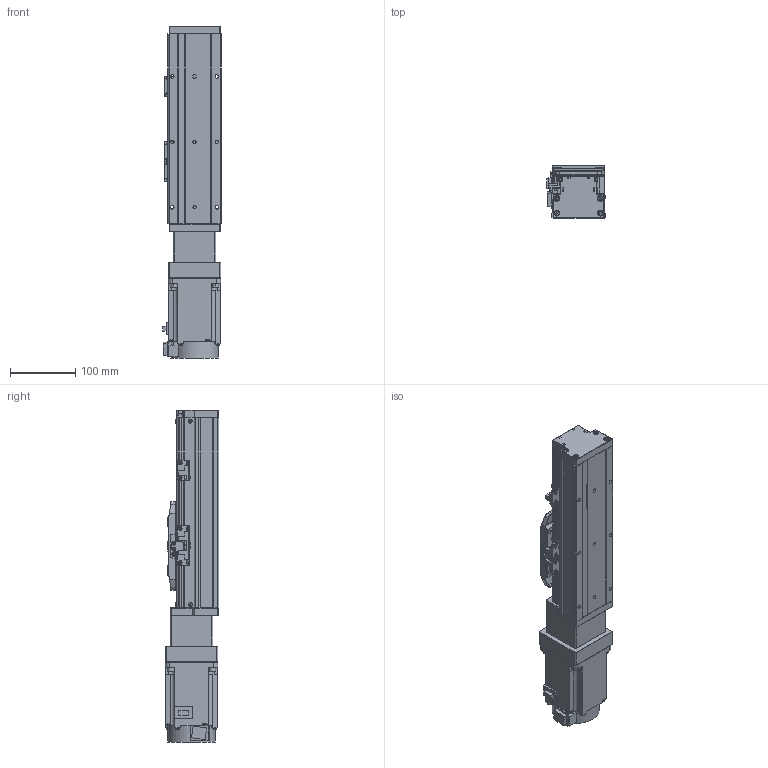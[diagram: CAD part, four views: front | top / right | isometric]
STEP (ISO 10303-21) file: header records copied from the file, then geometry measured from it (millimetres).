
FILE_DESCRIPTION (( 'STEP AP203' ), '1' );
FILE_NAME ('GTH8-100-BC-M75-C4.step', '2023-02-14T02:17:54', ( '微软用户' ), ( '微软中国' ), 'SwSTEP 2.0', 'SolidWorks 2020', '' );
FILE_SCHEMA (( 'CONFIG_CONTROL_DESIGN' ));
Length unit declared in the file: millimetre
Products named in the file (19): GTH8-100-BC-M75-C4; GBT 70.3-M3℅6; GBT96.1-2002 3×0.8; GTH80-022; BTH-M3X5X6; GTH80-001_100; GBT 70.1-M3℅6; CTHA86-006-1_CTHA86-006-4; GTH80-003; GBT 70.1-M4×16; CTHA86-013; GTH80-004; GTH80-028; CTHA86-027; GTH80-006; GTH50-024; hg-kn73j_-s100; GTH80-013; GTH50-023
Assembly tree (60 placements, depth 2):
  GTH8-100-BC-M75-C4
    GTH80-001_100
    GTH80-003
    GTH80-004
    GTH80-006
    GTH80-013
    GBT 70.3-M3℅6  x6
    GTH80-022
    GBT 70.1-M3℅6  x14
    GBT 70.1-M4×16  x8
    GTH80-028  x2
    GTH50-024  x3
    GTH50-023  x3
    GBT96.1-2002 3×0.8  x6
    BTH-M3X5X6  x8
    CTHA86-006-1_CTHA86-006-4
    CTHA86-013
    CTHA86-027
    hg-kn73j_-s100
Bounding box: 89.8 x 81.72 x 507.2 mm (x, y, z)
Volume: 2485325.4 mm3; surface area: 309013.6 mm2
Topology: 62 solids, 62 shells, 2237 faces, 5138 edges, 3128 vertices
Faces by surface type: plane 1185, cylinder 595, cone 285, torus 162, sphere 8, bspline 2
Entity records: 38897 total; most frequent: CARTESIAN_POINT 6410, DIRECTION 6391, ORIENTED_EDGE 5866, EDGE_CURVE 2933, AXIS2_PLACEMENT_3D 2227, VECTOR 1937, LINE 1937, VERTEX_POINT 1841
